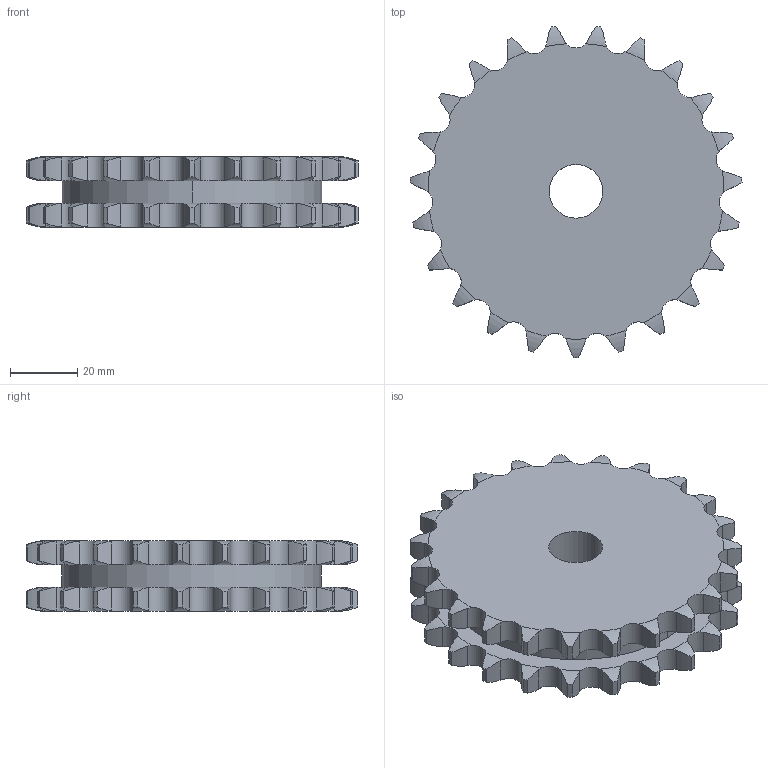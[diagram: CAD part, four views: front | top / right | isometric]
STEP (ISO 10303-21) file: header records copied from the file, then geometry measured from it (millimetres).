
FILE_DESCRIPTION((''),'2;1');
FILE_NAME('500-202-0023_PRT','2021-02-12T',('Brieden'),('Brieden'),'PRO/ENGINEER BY PARAMETRIC TECHNOLOGY CORPORATION, 2010160','PRO/ENGINEER BY PARAMETRIC TECHNOLOGY CORPORATION, 2010160','');
FILE_SCHEMA(('AUTOMOTIVE_DESIGN { 1 0 10303 214 1 1 1 1 }'));
Length unit declared in the file: millimetre
Products named in the file (1): 500-202-0023_PRT
Bounding box: 98.86 x 98.63 x 21 mm (x, y, z)
Volume: 119300.6 mm3; surface area: 24795.8 mm2
Topology: 1 solids, 1 shells, 284 faces, 840 edges, 560 vertices
Faces by surface type: cylinder 188, torus 92, plane 4
Entity records: 13578 total; most frequent: CARTESIAN_POINT 3839, ORIENTED_EDGE 1680, DIRECTION 1324, PRESENTATION_STYLE_ASSIGNMENT 841, STYLED_ITEM 841, CURVE_STYLE 840, EDGE_CURVE 840, AXIS2_PLACEMENT_3D 568
